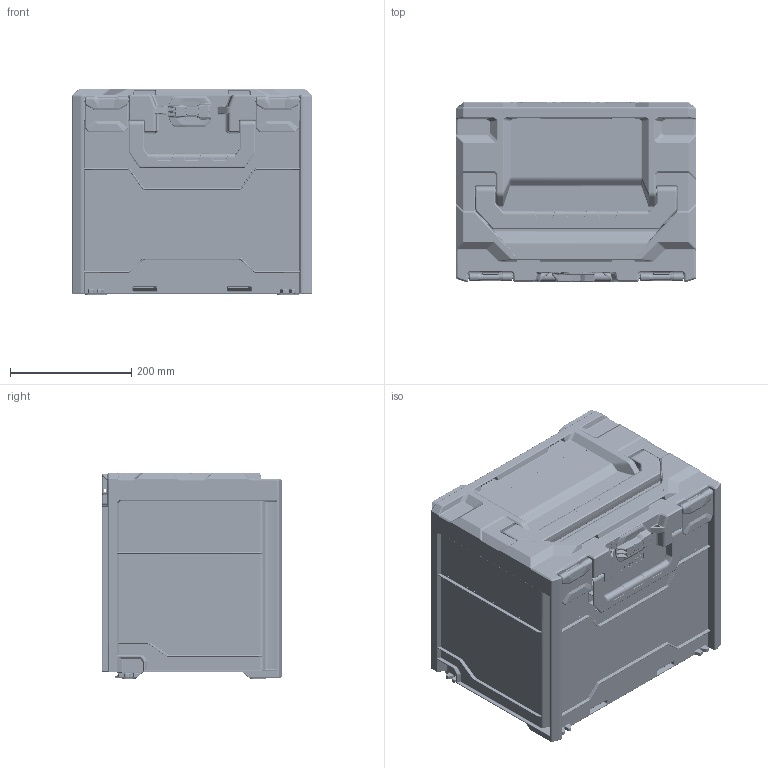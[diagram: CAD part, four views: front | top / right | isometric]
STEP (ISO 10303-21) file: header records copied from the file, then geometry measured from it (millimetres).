
FILE_DESCRIPTION(/* description */ (''),/* implementation_level */ '2;1');
FILE_NAME(/* name */ 'metaBOX_340_Neutral.stp',/* time_stamp */ '2020-06-16T16:17:00+02:00',/* author */ (''),/* organization */ (''),/* preprocessor_version */ 'ST-DEVELOPER v16.7',/* originating_system */ 'SIEMENS PLM Software NX 12.0',/* authorisation */ '');
FILE_SCHEMA (('AUTOMOTIVE_DESIGN { 1 0 10303 214 3 1 1 1 }'));
Products named in the file (1): BU740C6CC2yd5l
Bounding box: 396 x 296.1 x 340 mm (x, y, z)
Volume: 2272736 mm3; surface area: 1767367.8 mm2
Topology: 7 solids, 7 shells, 13718 faces, 33707 edges, 19459 vertices
Faces by surface type: bspline 5330, cylinder 4576, plane 2916, sphere 418, cone 228, torus 204, extrusion 46
Full cylindrical faces by diameter (mm): 4 x11
Entity records: 527881 total; most frequent: CARTESIAN_POINT 238631, ORIENTED_EDGE 65990, DIRECTION 54140, EDGE_CURVE 32995, AXIS2_PLACEMENT_3D 21173, VERTEX_POINT 19427, EDGE_LOOP 13968, ADVANCED_FACE 13714
